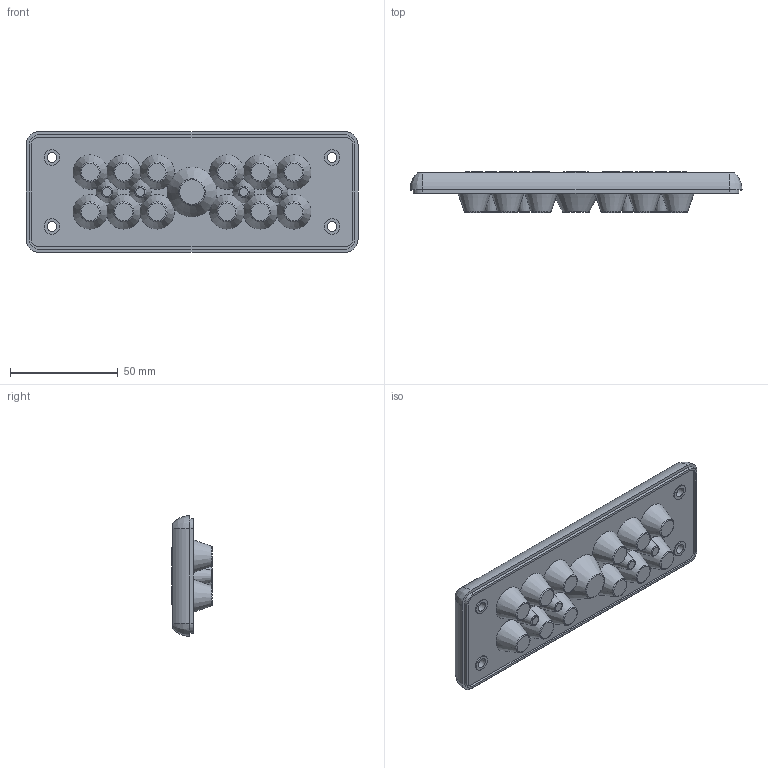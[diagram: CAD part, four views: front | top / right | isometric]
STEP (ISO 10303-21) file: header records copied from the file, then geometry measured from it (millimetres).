
FILE_DESCRIPTION( ( 'STEP AP214' ), '1' );
FILE_NAME( 'p:/temp/worker_23/temp/exporttempdir_3908_116_8vMPM/format_0/107472 MH-24 F 17-3.stp', '2021-05-11T08:11:47', ( 'License CC BY-ND 4.0' ), ( 'CADENAS' ), ' ', 'PARTsolutions', ' ' );
FILE_SCHEMA( ( 'AUTOMOTIVE_DESIGN { 1 0 10303 214 1 1 1 1 }' ) );
Length unit declared in the file: millimetre
Products named in the file (1): _107472 MH-24 F 17-3
Bounding box: 154 x 19 x 56 mm (x, y, z)
Volume: 88769.6 mm3; surface area: 25197.4 mm2
Topology: 1 solids, 1 shells, 157 faces, 356 edges, 229 vertices
Faces by surface type: plane 70, cone 38, cylinder 24, torus 21, bspline 4
Full cylindrical faces by diameter (mm): 4.5 x4, 7.2 x4
Entity records: 5654 total; most frequent: CARTESIAN_POINT 1138, DIRECTION 736, ORIENTED_EDGE 536, AXIS2_PLACEMENT_3D 342, EDGE_CURVE 268, EDGE_LOOP 260, VERTEX_POINT 208, CIRCLE 188
